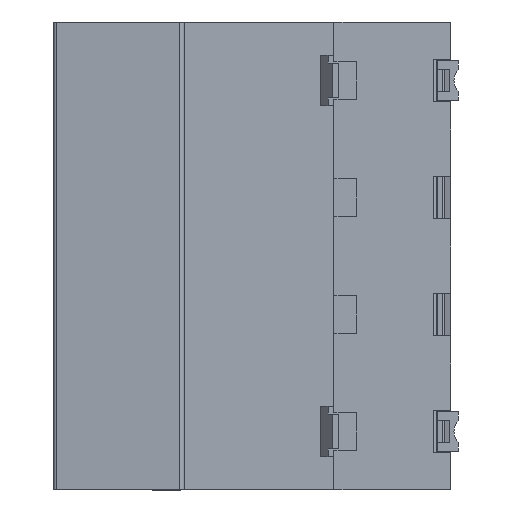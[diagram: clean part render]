
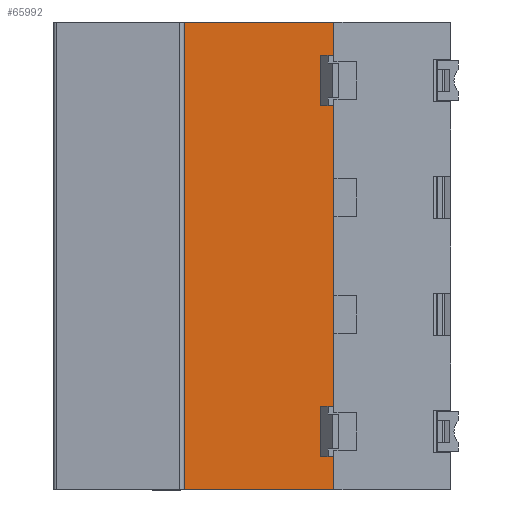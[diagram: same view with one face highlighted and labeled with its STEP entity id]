
A CAD part, front view. The second image highlights one B-rep face of the part: STEP entity #65992.
In plain terms, the highlighted planar face has unit normal (0, -1, 0).
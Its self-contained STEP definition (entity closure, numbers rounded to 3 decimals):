
#6158 = EDGE_LOOP ( 'NONE', ( #11311, #11312, #11313, #11314 ) ) ;
#11311 = ORIENTED_EDGE ( 'NONE', *, *, #55029, .F. ) ;
#11312 = ORIENTED_EDGE ( 'NONE', *, *, #31972, .F. ) ;
#11313 = ORIENTED_EDGE ( 'NONE', *, *, #32198, .F. ) ;
#11314 = ORIENTED_EDGE ( 'NONE', *, *, #32200, .T. ) ;
#19182 = AXIS2_PLACEMENT_3D ( 'NONE', #23002, #23004, #23006 ) ;
#20889 = CARTESIAN_POINT ( 'NONE',  ( 12.171, -32.772, 13.25 ) ) ;
#20891 = CARTESIAN_POINT ( 'NONE',  ( 12.171, -32.772, -92.75 ) ) ;
#22953 = PLANE ( 'NONE',  #19182 ) ;
#22981 = FACE_OUTER_BOUND ( 'NONE', #6158, .T. ) ;
#23002 = CARTESIAN_POINT ( 'NONE',  ( -23.829, -32.772, 13.25 ) ) ;
#23004 = DIRECTION ( 'NONE',  ( 0., 1., 0. ) ) ;
#23006 = DIRECTION ( 'NONE',  ( -1., 0., 0. ) ) ;
#26619 = VERTEX_POINT ( 'NONE', #37742 ) ;
#26625 = VERTEX_POINT ( 'NONE', #37748 ) ;
#31972 = EDGE_CURVE ( 'NONE', #63449, #26625, #33751, .T. ) ;
#32198 = EDGE_CURVE ( 'NONE', #63445, #63449, #39127, .T. ) ;
#32200 = EDGE_CURVE ( 'NONE', #63445, #26619, #39144, .T. ) ;
#33744 = CARTESIAN_POINT ( 'NONE',  ( -23.829, -32.772, -92.75 ) ) ;
#33751 = LINE ( 'NONE', #33744, #34815 ) ;
#33761 = DIRECTION ( 'NONE',  ( -1., 0., 0. ) ) ;
#34815 = VECTOR ( 'NONE', #33761, 1000. ) ;
#35595 = VECTOR ( 'NONE', #39129, 1000. ) ;
#35614 = VECTOR ( 'NONE', #39146, 1000. ) ;
#37742 = CARTESIAN_POINT ( 'NONE',  ( -23.829, -32.772, 13.25 ) ) ;
#37748 = CARTESIAN_POINT ( 'NONE',  ( -23.829, -32.772, -92.75 ) ) ;
#39127 = LINE ( 'NONE', #39128, #35595 ) ;
#39128 = CARTESIAN_POINT ( 'NONE',  ( 12.171, -32.772, 13.25 ) ) ;
#39129 = DIRECTION ( 'NONE',  ( 0., 0., -1. ) ) ;
#39144 = LINE ( 'NONE', #39145, #35614 ) ;
#39145 = CARTESIAN_POINT ( 'NONE',  ( 38.671, -32.772, 13.25 ) ) ;
#39146 = DIRECTION ( 'NONE',  ( -1., 0., 0. ) ) ;
#41067 = LINE ( 'NONE', #41068, #58618 ) ;
#41068 = CARTESIAN_POINT ( 'NONE',  ( -23.829, -32.772, 13.25 ) ) ;
#41069 = DIRECTION ( 'NONE',  ( 0., 0., 1. ) ) ;
#55029 = EDGE_CURVE ( 'NONE', #26625, #26619, #41067, .T. ) ;
#58618 = VECTOR ( 'NONE', #41069, 1000. ) ;
#63445 = VERTEX_POINT ( 'NONE', #20889 ) ;
#63449 = VERTEX_POINT ( 'NONE', #20891 ) ;
#65992 = ADVANCED_FACE ( 'NONE', ( #22981 ), #22953, .F. ) ;
